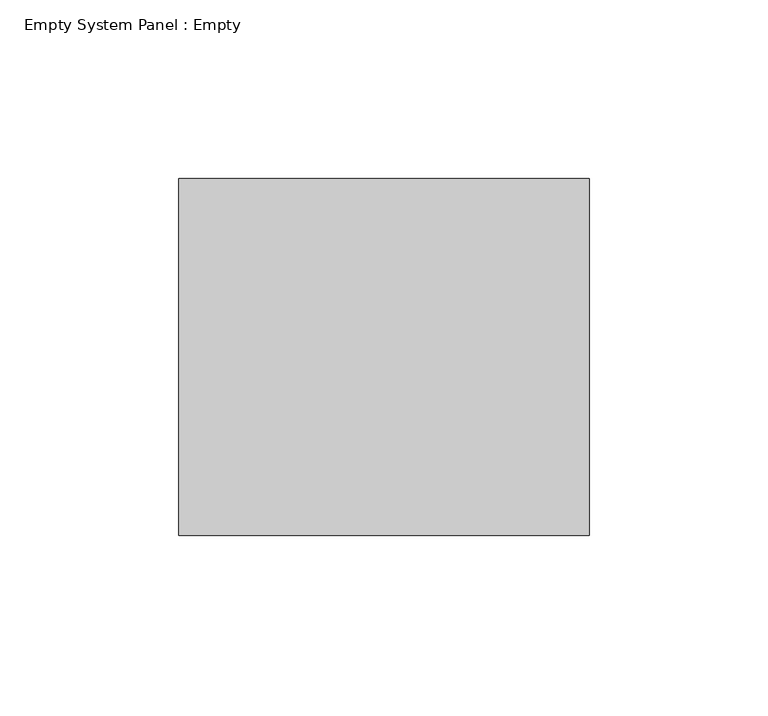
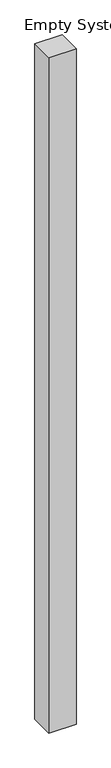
"""IFC4 building model written with IfcOpenShell, lengths in millimetres: plate geometry, Empty System Panel : Empty."""

from ifc_helpers import new_model, si_unit, origin, origin_with_axes, place, context, project, spatial, polyline, outline, extrude, source, transform, mapped, element, save


def empty_system_panel_empty_d245318e(model_context):
    return source(origin(), model_context, "Body", "SweptSolid", [
        extrude(outline(polyline([(57.5, -50.0), (-57.5, -50.0), (-57.5, 50.0), (57.5, 50.0), (57.5, -50.0)])), origin_with_axes(), (0.0, 0.0, 1.0), 3000.0),
    ])


if __name__ == "__main__":
    model = new_model("IFC4")
    model_context = context("Model", 3, world=origin())
    ifc_project = project(units=[si_unit("LENGTHUNIT", "METRE", prefix="MILLI")], contexts=[model_context])
    site = spatial("IfcSite", under=ifc_project)
    building = spatial("IfcBuilding", under=site)
    placement = place(None, origin())
    empty_system_panel_empty_shape = empty_system_panel_empty_d245318e(model_context)
    element("IfcPlate", 1, ObjectType="Empty System Panel : Empty", at=placement, inside=building, context=model_context, shape_type="MappedRepresentation", body=[
        mapped(empty_system_panel_empty_shape, transform((0.0, 0.0, 0.0), x_axis=(1.0, 0.0, 0.0), y_axis=(0.0, 1.0, 0.0), z_axis=(0.0, 0.0, 1.0))),
    ])
    save(model, "model.ifc")
